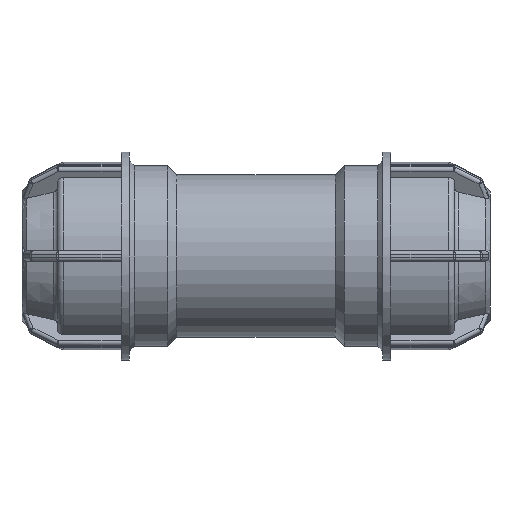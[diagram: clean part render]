
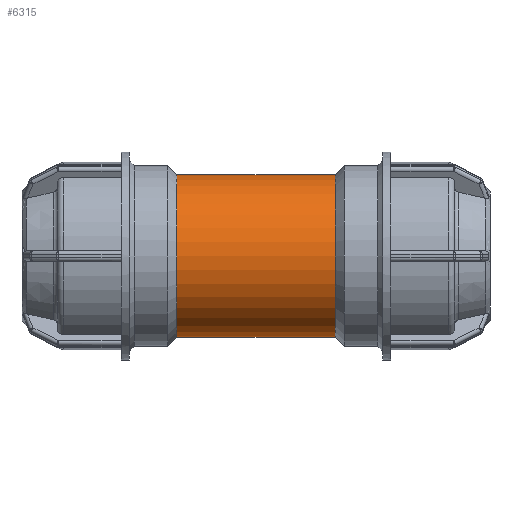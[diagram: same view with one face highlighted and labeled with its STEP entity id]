
A CAD part, front view. The second image highlights one B-rep face of the part: STEP entity #6315.
In plain terms, the highlighted cylindrical face has radius 36 mm (diameter 72 mm), a full revolution.
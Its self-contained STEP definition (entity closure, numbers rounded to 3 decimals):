
#1037=CIRCLE('',#6337,36.);
#1204=CIRCLE('',#6703,36.);
#1428=FACE_BOUND('',#2466,.T.);
#1429=FACE_BOUND('',#2467,.T.);
#1441=B_SPLINE_CURVE_WITH_KNOTS('',3,(#8986,#8987,#8988,#8989,#8990,#8991,
#8992,#8993,#8994,#8995,#8996,#8997,#8998,#8999,#9000,#9001,#9002,#9003,
#9004,#9005,#9006,#9007,#9008,#9009,#9010,#9011,#9012,#9013,#9014,#9015,
#9016,#9017,#9018,#9019,#9020,#9021,#9022,#9023,#9024,#9025,#9026,#9027,
#9028,#9029,#9030,#9031,#9032,#9033,#9034,#9035,#9036,#9037,#9038,#9039,
#9040,#9041,#9042,#9043,#9044,#9045,#9046,#9047,#9048,#9049,#9050,#9051),
 .UNSPECIFIED.,.T.,.F.,(4,2,2,2,2,2,2,2,2,2,2,2,2,2,2,2,2,2,2,2,2,2,2,2,
2,2,2,2,2,2,2,2,4),(0.,0.44,0.881,1.321,
1.762,2.198,2.635,3.072,3.509,
3.946,4.383,4.82,5.257,5.697,
6.138,6.578,7.018,7.459,7.899,
8.34,8.78,9.217,9.654,10.091,
10.528,10.964,11.401,11.838,12.275,
12.716,13.156,13.596,14.037),
 .UNSPECIFIED.);
#2024=FACE_OUTER_BOUND('',#2465,.T.);
#2465=EDGE_LOOP('',(#5757));
#2466=EDGE_LOOP('',(#5758));
#2467=EDGE_LOOP('',(#5759));
#2496=VERTEX_POINT('',#8985);
#2498=VERTEX_POINT('',#9055);
#2761=VERTEX_POINT('',#10540);
#3040=EDGE_CURVE('',#2496,#2496,#1441,.T.);
#3042=EDGE_CURVE('',#2498,#2498,#1037,.T.);
#3491=EDGE_CURVE('',#2761,#2761,#1204,.T.);
#5757=ORIENTED_EDGE('',*,*,#3042,.T.);
#5758=ORIENTED_EDGE('',*,*,#3040,.T.);
#5759=ORIENTED_EDGE('',*,*,#3491,.F.);
#5910=CYLINDRICAL_SURFACE('',#7069,36.);
#6315=ADVANCED_FACE('',(#2024,#1428,#1429),#5910,.T.);
#6337=AXIS2_PLACEMENT_3D('',#9056,#7105,#7106);
#6703=AXIS2_PLACEMENT_3D('',#10541,#8017,#8018);
#7069=AXIS2_PLACEMENT_3D('',#12036,#8929,#8930);
#7105=DIRECTION('center_axis',(1.,0.,0.));
#7106=DIRECTION('ref_axis',(0.,0.,-1.));
#8017=DIRECTION('center_axis',(1.,0.,0.));
#8018=DIRECTION('ref_axis',(0.,0.,-1.));
#8929=DIRECTION('center_axis',(1.,0.,0.));
#8930=DIRECTION('ref_axis',(0.,1.,0.));
#8985=CARTESIAN_POINT('',(0.,28.102,-22.5));
#8986=CARTESIAN_POINT('Ctrl Pts',(0.,28.102,-22.5));
#8987=CARTESIAN_POINT('Ctrl Pts',(1.468,28.102,-22.5));
#8988=CARTESIAN_POINT('Ctrl Pts',(2.964,28.221,-22.354));
#8989=CARTESIAN_POINT('Ctrl Pts',(5.906,28.68,-21.763));
#8990=CARTESIAN_POINT('Ctrl Pts',(7.352,29.019,-21.317));
#8991=CARTESIAN_POINT('Ctrl Pts',(10.102,29.834,-20.16));
#8992=CARTESIAN_POINT('Ctrl Pts',(11.41,30.311,-19.447));
#8993=CARTESIAN_POINT('Ctrl Pts',(13.824,31.299,-17.812));
#8994=CARTESIAN_POINT('Ctrl Pts',(14.93,31.811,-16.89));
#8995=CARTESIAN_POINT('Ctrl Pts',(16.882,32.773,-14.937));
#8996=CARTESIAN_POINT('Ctrl Pts',(17.803,33.26,-13.836));
#8997=CARTESIAN_POINT('Ctrl Pts',(19.441,34.165,-11.421));
#8998=CARTESIAN_POINT('Ctrl Pts',(20.157,34.581,-10.108));
#8999=CARTESIAN_POINT('Ctrl Pts',(21.32,35.271,-7.346));
#9000=CARTESIAN_POINT('Ctrl Pts',(21.766,35.545,-5.895));
#9001=CARTESIAN_POINT('Ctrl Pts',(22.356,35.91,-2.95));
#9002=CARTESIAN_POINT('Ctrl Pts',(22.5,36.,-1.456));
#9003=CARTESIAN_POINT('Ctrl Pts',(22.5,36.,1.456));
#9004=CARTESIAN_POINT('Ctrl Pts',(22.356,35.91,2.95));
#9005=CARTESIAN_POINT('Ctrl Pts',(21.766,35.545,5.895));
#9006=CARTESIAN_POINT('Ctrl Pts',(21.32,35.271,7.346));
#9007=CARTESIAN_POINT('Ctrl Pts',(20.157,34.581,10.108));
#9008=CARTESIAN_POINT('Ctrl Pts',(19.441,34.165,11.421));
#9009=CARTESIAN_POINT('Ctrl Pts',(17.803,33.26,13.836));
#9010=CARTESIAN_POINT('Ctrl Pts',(16.882,32.773,14.937));
#9011=CARTESIAN_POINT('Ctrl Pts',(14.93,31.811,16.89));
#9012=CARTESIAN_POINT('Ctrl Pts',(13.824,31.299,17.812));
#9013=CARTESIAN_POINT('Ctrl Pts',(11.41,30.311,19.447));
#9014=CARTESIAN_POINT('Ctrl Pts',(10.102,29.834,20.16));
#9015=CARTESIAN_POINT('Ctrl Pts',(7.352,29.019,21.317));
#9016=CARTESIAN_POINT('Ctrl Pts',(5.906,28.68,21.763));
#9017=CARTESIAN_POINT('Ctrl Pts',(2.964,28.221,22.354));
#9018=CARTESIAN_POINT('Ctrl Pts',(1.468,28.102,22.5));
#9019=CARTESIAN_POINT('Ctrl Pts',(-1.468,28.102,22.5));
#9020=CARTESIAN_POINT('Ctrl Pts',(-2.964,28.221,22.354));
#9021=CARTESIAN_POINT('Ctrl Pts',(-5.906,28.68,21.763));
#9022=CARTESIAN_POINT('Ctrl Pts',(-7.352,29.019,21.317));
#9023=CARTESIAN_POINT('Ctrl Pts',(-10.102,29.834,20.16));
#9024=CARTESIAN_POINT('Ctrl Pts',(-11.41,30.311,19.447));
#9025=CARTESIAN_POINT('Ctrl Pts',(-13.824,31.299,17.812));
#9026=CARTESIAN_POINT('Ctrl Pts',(-14.93,31.811,16.89));
#9027=CARTESIAN_POINT('Ctrl Pts',(-16.882,32.773,14.937));
#9028=CARTESIAN_POINT('Ctrl Pts',(-17.803,33.26,13.836));
#9029=CARTESIAN_POINT('Ctrl Pts',(-19.441,34.165,11.421));
#9030=CARTESIAN_POINT('Ctrl Pts',(-20.157,34.581,10.108));
#9031=CARTESIAN_POINT('Ctrl Pts',(-21.32,35.271,7.346));
#9032=CARTESIAN_POINT('Ctrl Pts',(-21.766,35.545,5.895));
#9033=CARTESIAN_POINT('Ctrl Pts',(-22.356,35.91,2.95));
#9034=CARTESIAN_POINT('Ctrl Pts',(-22.5,36.,1.456));
#9035=CARTESIAN_POINT('Ctrl Pts',(-22.5,36.,-1.456));
#9036=CARTESIAN_POINT('Ctrl Pts',(-22.356,35.91,-2.95));
#9037=CARTESIAN_POINT('Ctrl Pts',(-21.766,35.545,-5.895));
#9038=CARTESIAN_POINT('Ctrl Pts',(-21.32,35.271,-7.346));
#9039=CARTESIAN_POINT('Ctrl Pts',(-20.157,34.581,-10.108));
#9040=CARTESIAN_POINT('Ctrl Pts',(-19.441,34.165,-11.421));
#9041=CARTESIAN_POINT('Ctrl Pts',(-17.803,33.26,-13.836));
#9042=CARTESIAN_POINT('Ctrl Pts',(-16.882,32.773,-14.937));
#9043=CARTESIAN_POINT('Ctrl Pts',(-14.93,31.811,-16.89));
#9044=CARTESIAN_POINT('Ctrl Pts',(-13.824,31.299,-17.812));
#9045=CARTESIAN_POINT('Ctrl Pts',(-11.41,30.311,-19.447));
#9046=CARTESIAN_POINT('Ctrl Pts',(-10.102,29.834,-20.16));
#9047=CARTESIAN_POINT('Ctrl Pts',(-7.352,29.019,-21.317));
#9048=CARTESIAN_POINT('Ctrl Pts',(-5.906,28.68,-21.763));
#9049=CARTESIAN_POINT('Ctrl Pts',(-2.964,28.221,-22.354));
#9050=CARTESIAN_POINT('Ctrl Pts',(-1.468,28.102,-22.5));
#9051=CARTESIAN_POINT('Ctrl Pts',(0.,28.102,-22.5));
#9055=CARTESIAN_POINT('',(-35.1,36.,0.));
#9056=CARTESIAN_POINT('Origin',(-35.1,0.,0.));
#10540=CARTESIAN_POINT('',(35.1,36.,0.));
#10541=CARTESIAN_POINT('Origin',(35.1,0.,0.));
#12036=CARTESIAN_POINT('Origin',(17.55,0.,0.));
